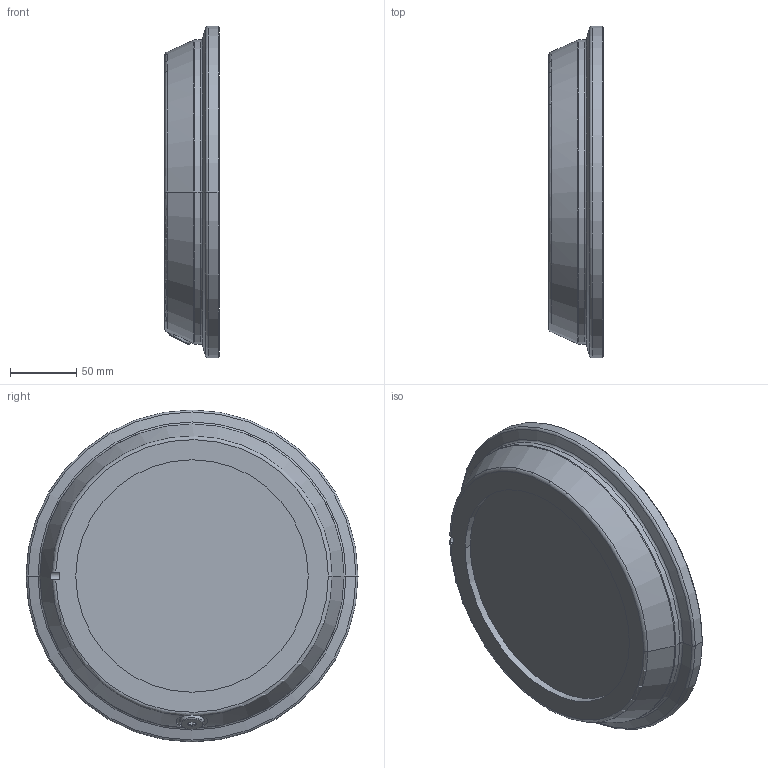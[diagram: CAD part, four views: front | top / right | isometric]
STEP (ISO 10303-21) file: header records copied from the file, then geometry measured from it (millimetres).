
FILE_DESCRIPTION (( 'STEP AP214' ), '1' );
FILE_NAME ('IRB7710_360kg-330_OC_00_LINK6_CAD.STEP', '2023-09-27T06:52:22', ( '' ), ( '' ), 'SwSTEP 2.0', 'SolidWorks 2022', '' );
FILE_SCHEMA (( 'AUTOMOTIVE_DESIGN' ));
Length unit declared in the file: millimetre
Products named in the file (1): IRB7710_360kg-330_OC_00_LINK6_CAD
Bounding box: 41.2 x 250 x 250 mm (x, y, z)
Volume: 1184420.6 mm3; surface area: 164877.2 mm2
Topology: 1 solids, 1 shells, 247 faces, 575 edges, 343 vertices
Faces by surface type: cylinder 114, cone 74, plane 45, torus 12, bspline 2
Entity records: 7469 total; most frequent: CARTESIAN_POINT 1662, DIRECTION 1316, ORIENTED_EDGE 1094, EDGE_CURVE 547, AXIS2_PLACEMENT_3D 541, VERTEX_POINT 343, CIRCLE 295, EDGE_LOOP 288
